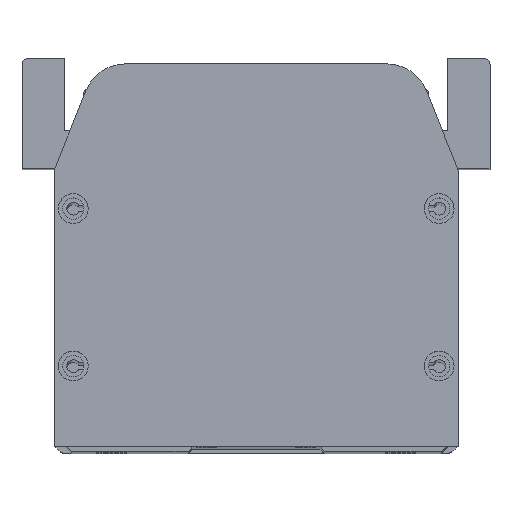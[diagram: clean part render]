
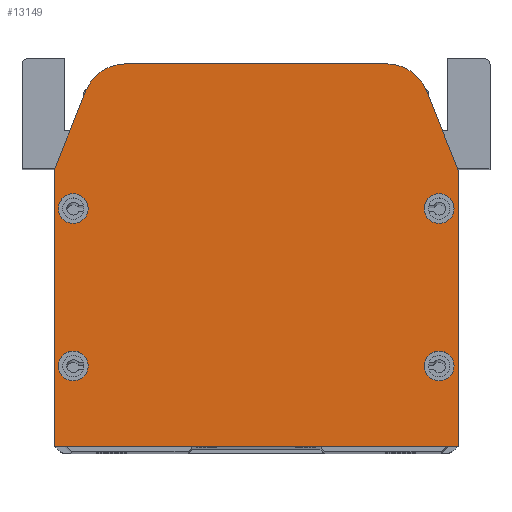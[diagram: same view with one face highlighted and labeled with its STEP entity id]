
A CAD part, top view. The second image highlights one B-rep face of the part: STEP entity #13149.
In plain terms, the highlighted planar face has unit normal (0, 0, 1).
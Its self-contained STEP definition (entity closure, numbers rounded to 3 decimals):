
#22 = DIRECTION ( 'NONE',  ( 0., 0., 1. ) ) ;
#163 = CIRCLE ( 'NONE', #4044, 10. ) ;
#742 = DIRECTION ( 'NONE',  ( 0., 1., 0. ) ) ;
#804 = DIRECTION ( 'NONE',  ( 1., 0., 0. ) ) ;
#1187 = AXIS2_PLACEMENT_3D ( 'NONE', #27874, #10511, #30764 ) ;
#1289 = EDGE_CURVE ( 'NONE', #32034, #27769, #36871, .T. ) ;
#2211 = CARTESIAN_POINT ( 'NONE',  ( 16.77, 90., 10. ) ) ;
#2820 = DIRECTION ( 'NONE',  ( 0., 0., 1. ) ) ;
#3305 = ORIENTED_EDGE ( 'NONE', *, *, #9097, .T. ) ;
#3399 = CIRCLE ( 'NONE', #9051, 3.5 ) ;
#4016 = CARTESIAN_POINT ( 'NONE',  ( 78.23, 80., 10. ) ) ;
#4044 = AXIS2_PLACEMENT_3D ( 'NONE', #4016, #24339, #6932 ) ;
#4241 = LINE ( 'NONE', #13960, #11911 ) ;
#4869 = ORIENTED_EDGE ( 'NONE', *, *, #24183, .F. ) ;
#4936 = DIRECTION ( 'NONE',  ( 0., 0., 1. ) ) ;
#5160 = LINE ( 'NONE', #21011, #27381 ) ;
#5292 = CIRCLE ( 'NONE', #23630, 3.5 ) ;
#5632 = EDGE_CURVE ( 'NONE', #19717, #28018, #15336, .T. ) ;
#5747 = ORIENTED_EDGE ( 'NONE', *, *, #1289, .F. ) ;
#5803 = VERTEX_POINT ( 'NONE', #13322 ) ;
#5937 = DIRECTION ( 'NONE',  ( -1., 0., 0. ) ) ;
#5993 = CARTESIAN_POINT ( 'NONE',  ( 87., 19., 10. ) ) ;
#6405 = CARTESIAN_POINT ( 'NONE',  ( 94., 56., 10. ) ) ;
#6541 = CARTESIAN_POINT ( 'NONE',  ( 0., 65., 10. ) ) ;
#6745 = ORIENTED_EDGE ( 'NONE', *, *, #15812, .F. ) ;
#6883 = FACE_BOUND ( 'NONE', #37060, .T. ) ;
#6932 = DIRECTION ( 'NONE',  ( -1., 0., 0. ) ) ;
#7423 = LINE ( 'NONE', #22398, #28708 ) ;
#7636 = VECTOR ( 'NONE', #15379, 1000. ) ;
#7961 = CARTESIAN_POINT ( 'NONE',  ( 90.5, 19., 10. ) ) ;
#8051 = CARTESIAN_POINT ( 'NONE',  ( 1., 56., 10. ) ) ;
#8392 = AXIS2_PLACEMENT_3D ( 'NONE', #33938, #16597, #36851 ) ;
#8616 = EDGE_CURVE ( 'NONE', #5803, #27524, #3399, .T. ) ;
#8624 = CARTESIAN_POINT ( 'NONE',  ( 16.77, 80., 10. ) ) ;
#8859 = DIRECTION ( 'NONE',  ( 0., 0., 1. ) ) ;
#8929 = ORIENTED_EDGE ( 'NONE', *, *, #26808, .F. ) ;
#9051 = AXIS2_PLACEMENT_3D ( 'NONE', #9258, #29494, #12131 ) ;
#9097 = EDGE_CURVE ( 'NONE', #20032, #19717, #5160, .T. ) ;
#9258 = CARTESIAN_POINT ( 'NONE',  ( 90.5, 56., 10. ) ) ;
#9386 = EDGE_CURVE ( 'NONE', #14824, #9950, #7423, .T. ) ;
#9597 = FACE_BOUND ( 'NONE', #26298, .T. ) ;
#9950 = VERTEX_POINT ( 'NONE', #16256 ) ;
#10306 = EDGE_CURVE ( 'NONE', #9950, #20032, #21514, .T. ) ;
#10511 = DIRECTION ( 'NONE',  ( 0., 0., 1. ) ) ;
#10817 = DIRECTION ( 'NONE',  ( 0., -1., 0. ) ) ;
#10846 = DIRECTION ( 'NONE',  ( 1., 0., 0. ) ) ;
#10857 = AXIS2_PLACEMENT_3D ( 'NONE', #22330, #4936, #25247 ) ;
#10935 = EDGE_CURVE ( 'NONE', #15974, #14824, #4241, .T. ) ;
#11911 = VECTOR ( 'NONE', #28524, 1000. ) ;
#11935 = CARTESIAN_POINT ( 'NONE',  ( 4.5, 19., 10. ) ) ;
#12131 = DIRECTION ( 'NONE',  ( 1., 0., 0. ) ) ;
#12841 = VECTOR ( 'NONE', #20753, 1000. ) ;
#13014 = VECTOR ( 'NONE', #5937, 1000. ) ;
#13149 = ADVANCED_FACE ( 'NONE', ( #36823, #6883, #9597, #29070, #21402 ), #17369, .T. ) ;
#13184 = ORIENTED_EDGE ( 'NONE', *, *, #8616, .F. ) ;
#13322 = CARTESIAN_POINT ( 'NONE',  ( 87., 56., 10. ) ) ;
#13627 = EDGE_CURVE ( 'NONE', #30164, #26491, #15457, .T. ) ;
#13960 = CARTESIAN_POINT ( 'NONE',  ( 7.486, 83.714, 10. ) ) ;
#14560 = CARTESIAN_POINT ( 'NONE',  ( 16.77, 90., 10. ) ) ;
#14795 = ORIENTED_EDGE ( 'NONE', *, *, #34824, .T. ) ;
#14824 = VERTEX_POINT ( 'NONE', #6541 ) ;
#14886 = DIRECTION ( 'NONE',  ( 1., 0., 0. ) ) ;
#15254 = ORIENTED_EDGE ( 'NONE', *, *, #13627, .F. ) ;
#15336 = LINE ( 'NONE', #24046, #7636 ) ;
#15379 = DIRECTION ( 'NONE',  ( -0.371, 0.928, 0. ) ) ;
#15457 = CIRCLE ( 'NONE', #23829, 3.5 ) ;
#15686 = CARTESIAN_POINT ( 'NONE',  ( 7.486, 83.714, 10. ) ) ;
#15812 = EDGE_CURVE ( 'NONE', #17428, #20646, #30269, .T. ) ;
#15974 = VERTEX_POINT ( 'NONE', #15686 ) ;
#16256 = CARTESIAN_POINT ( 'NONE',  ( 0., 0., 10. ) ) ;
#16597 = DIRECTION ( 'NONE',  ( 0., 0., 1. ) ) ;
#16844 = CARTESIAN_POINT ( 'NONE',  ( 95., 0., 10. ) ) ;
#17369 = PLANE ( 'NONE',  #34953 ) ;
#17398 = EDGE_CURVE ( 'NONE', #36161, #15974, #18902, .T. ) ;
#17428 = VERTEX_POINT ( 'NONE', #21089 ) ;
#18007 = CARTESIAN_POINT ( 'NONE',  ( 95., 65., 10. ) ) ;
#18153 = DIRECTION ( 'NONE',  ( 0., 0., 1. ) ) ;
#18902 = CIRCLE ( 'NONE', #22295, 10. ) ;
#19717 = VERTEX_POINT ( 'NONE', #18007 ) ;
#20032 = VERTEX_POINT ( 'NONE', #16844 ) ;
#20176 = CARTESIAN_POINT ( 'NONE',  ( 90.5, 19., 10. ) ) ;
#20294 = DIRECTION ( 'NONE',  ( 1., 0., 0. ) ) ;
#20507 = EDGE_LOOP ( 'NONE', ( #28750, #29743, #3305, #34459, #31874, #14795, #24798, #27519 ) ) ;
#20646 = VERTEX_POINT ( 'NONE', #8051 ) ;
#20753 = DIRECTION ( 'NONE',  ( 1., 0., 0. ) ) ;
#20777 = LINE ( 'NONE', #14560, #13014 ) ;
#21011 = CARTESIAN_POINT ( 'NONE',  ( 95., 0., 10. ) ) ;
#21089 = CARTESIAN_POINT ( 'NONE',  ( 8., 56., 10. ) ) ;
#21382 = CIRCLE ( 'NONE', #1187, 3.5 ) ;
#21402 = FACE_OUTER_BOUND ( 'NONE', #20507, .T. ) ;
#21514 = LINE ( 'NONE', #32360, #12841 ) ;
#22295 = AXIS2_PLACEMENT_3D ( 'NONE', #35506, #18153, #804 ) ;
#22330 = CARTESIAN_POINT ( 'NONE',  ( 90.5, 56., 10. ) ) ;
#22398 = CARTESIAN_POINT ( 'NONE',  ( 0., 0., 10. ) ) ;
#22405 = AXIS2_PLACEMENT_3D ( 'NONE', #11935, #32196, #14886 ) ;
#22473 = EDGE_CURVE ( 'NONE', #26491, #30164, #5292, .T. ) ;
#22504 = CARTESIAN_POINT ( 'NONE',  ( 8., 19., 10. ) ) ;
#23097 = DIRECTION ( 'NONE',  ( 1., 0., 0. ) ) ;
#23630 = AXIS2_PLACEMENT_3D ( 'NONE', #7961, #28199, #10846 ) ;
#23753 = CARTESIAN_POINT ( 'NONE',  ( 87.514, 83.714, 10. ) ) ;
#23829 = AXIS2_PLACEMENT_3D ( 'NONE', #20176, #2820, #23097 ) ;
#24046 = CARTESIAN_POINT ( 'NONE',  ( 87.514, 83.714, 10. ) ) ;
#24183 = EDGE_CURVE ( 'NONE', #27769, #32034, #32844, .T. ) ;
#24339 = DIRECTION ( 'NONE',  ( 0., 0., 1. ) ) ;
#24798 = ORIENTED_EDGE ( 'NONE', *, *, #17398, .T. ) ;
#25247 = DIRECTION ( 'NONE',  ( 1., 0., 0. ) ) ;
#25249 = ORIENTED_EDGE ( 'NONE', *, *, #22473, .F. ) ;
#25576 = EDGE_CURVE ( 'NONE', #28018, #32486, #163, .T. ) ;
#26222 = CARTESIAN_POINT ( 'NONE',  ( 4.5, 56., 10. ) ) ;
#26298 = EDGE_LOOP ( 'NONE', ( #32851, #13184 ) ) ;
#26491 = VERTEX_POINT ( 'NONE', #5993 ) ;
#26808 = EDGE_CURVE ( 'NONE', #20646, #17428, #21382, .T. ) ;
#26854 = EDGE_CURVE ( 'NONE', #27524, #5803, #29052, .T. ) ;
#27381 = VECTOR ( 'NONE', #742, 1000. ) ;
#27519 = ORIENTED_EDGE ( 'NONE', *, *, #10935, .T. ) ;
#27524 = VERTEX_POINT ( 'NONE', #6405 ) ;
#27769 = VERTEX_POINT ( 'NONE', #22504 ) ;
#27874 = CARTESIAN_POINT ( 'NONE',  ( 4.5, 56., 10. ) ) ;
#28018 = VERTEX_POINT ( 'NONE', #23753 ) ;
#28199 = DIRECTION ( 'NONE',  ( 0., 0., 1. ) ) ;
#28524 = DIRECTION ( 'NONE',  ( -0.371, -0.928, 0. ) ) ;
#28708 = VECTOR ( 'NONE', #10817, 1000. ) ;
#28750 = ORIENTED_EDGE ( 'NONE', *, *, #9386, .T. ) ;
#29052 = CIRCLE ( 'NONE', #10857, 3.5 ) ;
#29070 = FACE_BOUND ( 'NONE', #33401, .T. ) ;
#29096 = DIRECTION ( 'NONE',  ( 1., 0., 0. ) ) ;
#29114 = CARTESIAN_POINT ( 'NONE',  ( 94., 19., 10. ) ) ;
#29494 = DIRECTION ( 'NONE',  ( 0., 0., 1. ) ) ;
#29743 = ORIENTED_EDGE ( 'NONE', *, *, #10306, .T. ) ;
#29982 = CARTESIAN_POINT ( 'NONE',  ( 1., 19., 10. ) ) ;
#30164 = VERTEX_POINT ( 'NONE', #29114 ) ;
#30269 = CIRCLE ( 'NONE', #32415, 3.5 ) ;
#30764 = DIRECTION ( 'NONE',  ( 1., 0., 0. ) ) ;
#31874 = ORIENTED_EDGE ( 'NONE', *, *, #25576, .T. ) ;
#32034 = VERTEX_POINT ( 'NONE', #29982 ) ;
#32196 = DIRECTION ( 'NONE',  ( 0., 0., 1. ) ) ;
#32360 = CARTESIAN_POINT ( 'NONE',  ( 0., 0., 10. ) ) ;
#32415 = AXIS2_PLACEMENT_3D ( 'NONE', #26222, #8859, #29096 ) ;
#32486 = VERTEX_POINT ( 'NONE', #34823 ) ;
#32844 = CIRCLE ( 'NONE', #8392, 3.5 ) ;
#32851 = ORIENTED_EDGE ( 'NONE', *, *, #26854, .F. ) ;
#33401 = EDGE_LOOP ( 'NONE', ( #6745, #8929 ) ) ;
#33784 = EDGE_LOOP ( 'NONE', ( #15254, #25249 ) ) ;
#33938 = CARTESIAN_POINT ( 'NONE',  ( 4.5, 19., 10. ) ) ;
#34459 = ORIENTED_EDGE ( 'NONE', *, *, #5632, .T. ) ;
#34823 = CARTESIAN_POINT ( 'NONE',  ( 78.23, 90., 10. ) ) ;
#34824 = EDGE_CURVE ( 'NONE', #32486, #36161, #20777, .T. ) ;
#34953 = AXIS2_PLACEMENT_3D ( 'NONE', #8624, #22, #20294 ) ;
#35506 = CARTESIAN_POINT ( 'NONE',  ( 16.77, 80., 10. ) ) ;
#36161 = VERTEX_POINT ( 'NONE', #2211 ) ;
#36823 = FACE_BOUND ( 'NONE', #33784, .T. ) ;
#36851 = DIRECTION ( 'NONE',  ( 1., 0., 0. ) ) ;
#36871 = CIRCLE ( 'NONE', #22405, 3.5 ) ;
#37060 = EDGE_LOOP ( 'NONE', ( #4869, #5747 ) ) ;
